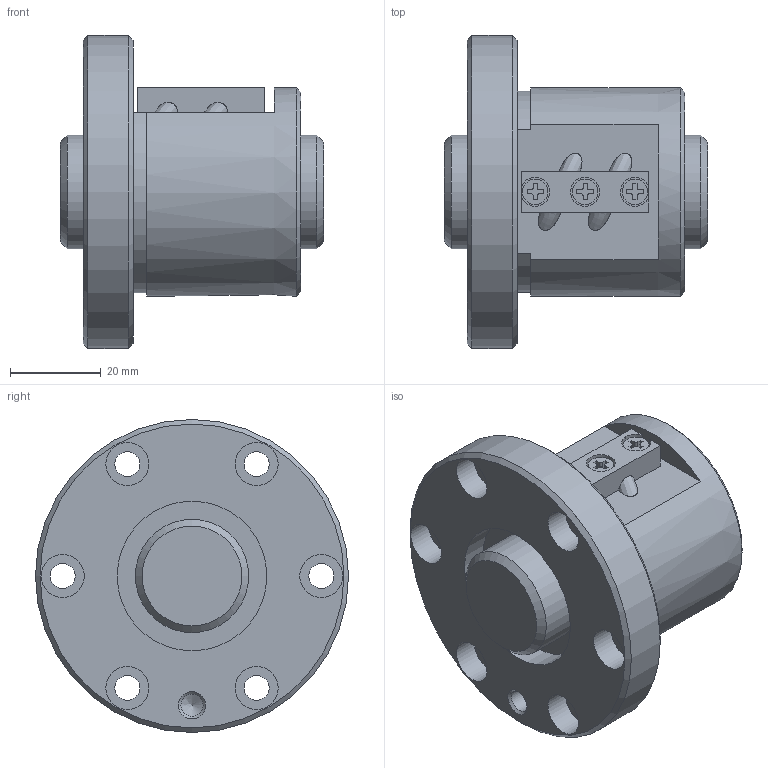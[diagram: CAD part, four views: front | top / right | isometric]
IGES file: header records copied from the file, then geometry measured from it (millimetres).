
Start section: Data from Parasolid IGES Translator 26.0.171, Copyright(c) 2006 Siemens PLM Software. All Rights Reserved.
Global section: file name: SBN2504V-5G0+58LC0(0000).igs; native system: By Siemens PLM Incorporated; preprocessor: XPlus GENERIC/IGES 26.0.171; author: Noname; organization: Noname; date: 20240528.102423; units: millimetre
Bounding box: 58 x 69 x 69 mm (x, y, z)
Surface area: 25781.4 mm2 (no closed solid volume)
Topology: 0 solids, 0 shells, 124 faces, 595 edges, 541 vertices
Faces by surface type: extrusion 69, revolution 55
